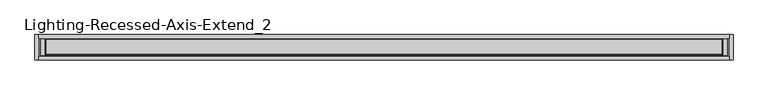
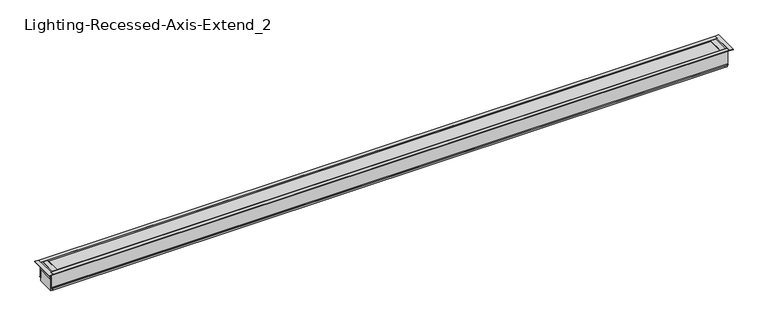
"""IFC4 building model written with IfcOpenShell, lengths in millimetres: light fixture geometry, Lighting-Recessed-Axis-Extend_2 : EX2R-900-80-35-SO-4."""

from ifc_helpers import new_model, si_unit, point, frame, frame_2d, origin, place, context, project, spatial, polyline, circle_curve, trimmed, segment, composite_curve, outline, extrude, faceted_brep, source, transform, mapped, element, save


def lighting_recessed_axis_extend_2_c471fec2(model_context):
    return source(origin(), model_context, "Body", "SolidModel", [
        extrude(outline(polyline([(34.29, -57.023), (38.954552, -57.023), (38.954552, -58.674), (32.004, -58.674), (32.004, 1.651), (45.593, 1.651), (45.593, 0.0), (34.29, 0.0), (34.29, -57.023)])), frame((-1240.536, 0.0, 0.0), z_axis=(1.0, 0.0, 0.0), x_axis=(0.0, 1.0, 0.0)), (0.0, 0.0, 1.0), 2481.072),
        extrude(outline(polyline([(-34.29, -57.023), (-34.29, 0.0), (-45.593, 0.0), (-45.593, 1.651), (-32.004, 1.651), (-32.004, -58.674), (-38.954552, -58.674), (-38.954552, -57.023), (-34.29, -57.023)])), frame((-1240.536, 0.0, 0.0), z_axis=(1.0, 0.0, 0.0), x_axis=(0.0, 1.0, 0.0)), (0.0, 0.0, 1.0), 2481.072),
        faceted_brep([(1240.536, -32.004, 0.0), (1240.536, -32.004, -23.749), (1242.822, -32.004, -23.749), (1242.822, -32.004, 0.0), (1242.822, 32.004, 0.0), (1242.822, 32.004, -23.749), (1240.536, 32.004, -23.749), (1240.536, 32.004, 0.0), (1240.536, -45.593, 0.0), (1240.536, -45.593, 1.651), (1240.536, 45.593, 1.651), (1240.536, 45.593, 0.0), (1254.379, -45.593, 0.0), (1254.379, -45.593, 1.651), (1254.379, 45.593, 1.651), (1254.379, 45.593, 0.0)], [[[0, 1, 2, 3]], [[4, 5, 6, 7]], [[1, 0, 8, 9, 10, 11, 7, 6]], [[2, 1, 6, 5]], [[3, 2, 5, 4]], [[8, 12, 13, 9]], [[11, 10, 14, 15]], [[12, 8, 0, 3, 4, 7, 11, 15]], [[13, 12, 15, 14]], [[9, 13, 14, 10]]]),
        extrude(outline(polyline([(0.5492861, 1215.8726), (-0.92075, 1215.8726), (-0.92075, 1216.66635), (-0.127, 1216.66635), (-0.127, 1223.518), (-2.9332019, 1223.518), (-2.9332019, 1234.186), (1.651, 1234.186), (1.651, 1216.7971437), (0.5492861, 1215.8726)])), frame((0.0, -29.972, 0.0), z_axis=(0.0, 1.0, 0.0), x_axis=(0.0, 0.0, 1.0)), (0.0, 0.0, 1.0), 59.944),
        extrude(outline(polyline([(1234.186, -32.004), (1234.186, 32.004), (1240.536, 32.004), (1240.536, -32.004), (1234.186, -32.004)])), frame((0.0, 0.0, -69.7865), z_axis=(0.0, 0.0, 1.0), x_axis=(1.0, 0.0, 0.0)), (0.0, 0.0, 1.0), 71.4375),
        faceted_brep([(-1242.822, -32.004, 0.0), (-1242.822, -32.004, -23.749), (-1240.536, -32.004, -23.749), (-1240.536, -32.004, 0.0), (-1240.536, 32.004, 0.0), (-1240.536, 32.004, -23.749), (-1242.822, 32.004, -23.749), (-1242.822, 32.004, 0.0), (-1240.536, 45.593, 0.0), (-1240.536, 45.593, 1.651), (-1240.536, -45.593, 1.651), (-1240.536, -45.593, 0.0), (-1254.379, -45.593, 0.0), (-1254.379, -45.593, 1.651), (-1254.379, 45.593, 0.0), (-1254.379, 45.593, 1.651)], [[[0, 1, 2, 3]], [[4, 5, 6, 7]], [[1, 0, 7, 6]], [[2, 1, 6, 5]], [[3, 2, 5, 4, 8, 9, 10, 11]], [[12, 11, 10, 13]], [[14, 15, 9, 8]], [[13, 10, 9, 15]], [[12, 13, 15, 14]], [[11, 12, 14, 8, 4, 7, 0, 3]]]),
        extrude(outline(polyline([(0.5492861, -1215.8726), (1.651, -1216.7971437), (1.651, -1234.186), (-2.9332019, -1234.186), (-2.9332019, -1223.518), (-0.127, -1223.518), (-0.127, -1216.66635), (-0.92075, -1216.66635), (-0.92075, -1215.8726), (0.5492861, -1215.8726)])), frame((0.0, -29.972, 0.0), z_axis=(0.0, 1.0, 0.0), x_axis=(0.0, 0.0, 1.0)), (0.0, 0.0, 1.0), 59.944),
        extrude(outline(polyline([(-1234.186, 32.004), (-1234.186, -32.004), (-1240.536, -32.004), (-1240.536, 32.004), (-1234.186, 32.004)])), frame((0.0, 0.0, -69.7865), z_axis=(0.0, 0.0, 1.0), x_axis=(1.0, 0.0, 0.0)), (0.0, 0.0, 1.0), 71.4375),
        extrude(outline(composite_curve([segment(polyline([(-24.1727262, -3.2385009), (-24.5114181, -9.7011263)]), True, "CONTINUOUS"), segment(trimmed(circle_curve(frame_2d((-27.2542, -12.7)), 4.064), [point((-24.5114181, -9.7011263))], [point((-25.3818814, -16.3070097))], False, "CARTESIAN"), True, "CONTINUOUS"), segment(trimmed(circle_curve(frame_2d((-22.149344, -15.5181543)), 3.3274001), [point((-25.3818814, -16.3070097))], [point((-24.5665956, -17.8047425))], True, "CARTESIAN"), True, "CONTINUOUS"), segment(trimmed(circle_curve(frame_2d((-17.1303177, -10.7704292)), 10.2362001), [point((-24.5665956, -17.8047425))], [point((-23.2119066, -19.0041445))], True, "CARTESIAN"), True, "CONTINUOUS"), segment(trimmed(circle_curve(frame_2d((-23.7023573, -19.6681538)), 0.8255), [point((-23.2119066, -19.0041445))], [point((-24.192808, -20.3321631))], False, "CARTESIAN"), True, "CONTINUOUS"), segment(trimmed(circle_curve(frame_2d((-17.1303169, -10.7704283)), 11.8872013), [point((-24.192808, -20.3321631))], [point((-25.7659952, -18.9393092))], False, "CARTESIAN"), True, "CONTINUOUS"), segment(trimmed(circle_curve(frame_2d((-22.149344, -15.5181543)), 4.9784001), [point((-25.7659952, -18.9393092))], [point((-27.1108807, -15.10874))], False, "CARTESIAN"), True, "CONTINUOUS"), segment(trimmed(circle_curve(frame_2d((-27.2542, -12.7)), 2.413), [point((-27.1108807, -15.10874))], [point((-25.4753941, -11.0695342))], True, "CARTESIAN"), True, "CONTINUOUS"), segment(trimmed(circle_curve(frame_2d((-23.6029669, -9.3532544)), 2.54), [point((-25.4753941, -11.0695342))], [point((-26.1394859, -9.2203211))], False, "CARTESIAN"), True, "CONTINUOUS"), segment(polyline([(-26.1394859, -9.2203211), (-25.825992, -3.2385009), (-28.829, -3.2385009), (-28.829, -1.3335), (28.829, -1.3335), (28.829, -3.2385009), (25.825992, -3.2385009), (26.1394859, -9.2203211)]), True, "CONTINUOUS"), segment(trimmed(circle_curve(frame_2d((23.6029669, -9.3532544)), 2.54), [point((26.1394859, -9.2203211))], [point((25.4753941, -11.0695342))], False, "CARTESIAN"), True, "CONTINUOUS"), segment(trimmed(circle_curve(frame_2d((27.2542, -12.7)), 2.413), [point((25.4753941, -11.0695342))], [point((27.1108807, -15.10874))], True, "CARTESIAN"), True, "CONTINUOUS"), segment(trimmed(circle_curve(frame_2d((22.149344, -15.5181543)), 4.9784001), [point((27.1108807, -15.10874))], [point((25.7659952, -18.9393092))], False, "CARTESIAN"), True, "CONTINUOUS"), segment(trimmed(circle_curve(frame_2d((17.1303169, -10.7704283)), 11.8872013), [point((25.7659952, -18.9393092))], [point((24.192808, -20.3321631))], False, "CARTESIAN"), True, "CONTINUOUS"), segment(trimmed(circle_curve(frame_2d((23.7023573, -19.6681538)), 0.8255), [point((24.192808, -20.3321631))], [point((23.2119066, -19.0041445))], False, "CARTESIAN"), True, "CONTINUOUS"), segment(trimmed(circle_curve(frame_2d((17.1303177, -10.7704292)), 10.2362001), [point((23.2119066, -19.0041445))], [point((24.5665956, -17.8047425))], True, "CARTESIAN"), True, "CONTINUOUS"), segment(trimmed(circle_curve(frame_2d((22.149344, -15.5181543)), 3.3274001), [point((24.5665956, -17.8047425))], [point((25.3818814, -16.3070097))], True, "CARTESIAN"), True, "CONTINUOUS"), segment(trimmed(circle_curve(frame_2d((27.2542, -12.7)), 4.064), [point((25.3818814, -16.3070097))], [point((24.5114181, -9.7011263))], False, "CARTESIAN"), True, "CONTINUOUS"), segment(polyline([(24.5114181, -9.7011263), (24.1727262, -3.2385009), (-24.1727262, -3.2385009)]), True, "CONTINUOUS")], self_intersect=False)), frame((-1219.2, 0.0, 0.0), z_axis=(1.0, 0.0, 0.0), x_axis=(0.0, 1.0, 0.0)), (0.0, 0.0, 1.0), 2438.4),
        extrude(outline(composite_curve([segment(polyline([(-29.972, -13.2588), (-29.972, -67.7545), (29.972, -67.7545), (29.972, -13.2588), (28.1325797, -13.2588)]), True, "CONTINUOUS"), segment(trimmed(circle_curve(frame_2d((26.6262297, -13.2588)), 1.5063501), [point((28.1325797, -13.2588))], [point((25.8730546, -14.5633374))], False, "CARTESIAN"), True, "CONTINUOUS"), segment(trimmed(circle_curve(frame_2d((27.0642121, -12.5001921)), 2.382315), [point((25.8730546, -14.5633374))], [point((24.6896516, -12.3081318))], False, "CARTESIAN"), True, "CONTINUOUS"), segment(polyline([(24.6896516, -12.3081318), (28.067, -9.4742), (28.067, -11.2268), (29.972, -11.2268), (29.972, -4.699), (28.067, -4.699), (28.067, -6.223), (26.416, -6.1364748), (26.416, -3.429), (29.972, -3.429), (29.972, 1.651), (32.004, 1.651), (32.004, -69.7865), (-32.004, -69.7865), (-32.004, 1.651), (-29.972, 1.651), (-29.972, -3.429), (-26.416, -3.429), (-26.416, -6.1364748), (-28.067, -6.223), (-28.067, -4.699), (-29.972, -4.699), (-29.972, -11.2268), (-28.067, -11.2268), (-28.067, -9.4742), (-24.6896516, -12.3081318)]), True, "CONTINUOUS"), segment(trimmed(circle_curve(frame_2d((-27.0642121, -12.5001921)), 2.382315), [point((-24.6896516, -12.3081318))], [point((-25.8730546, -14.5633374))], False, "CARTESIAN"), True, "CONTINUOUS"), segment(trimmed(circle_curve(frame_2d((-26.6262297, -13.2588)), 1.5063501), [point((-25.8730546, -14.5633374))], [point((-28.1325797, -13.2588))], False, "CARTESIAN"), True, "CONTINUOUS"), segment(polyline([(-28.1325797, -13.2588), (-29.972, -13.2588)]), True, "CONTINUOUS")], self_intersect=False)), frame((-1234.186, 0.0, 0.0), z_axis=(1.0, 0.0, 0.0), x_axis=(0.0, 1.0, 0.0)), (0.0, 0.0, 1.0), 2468.372),
    ])


if __name__ == "__main__":
    model = new_model("IFC4")
    model_context = context("Model", 3, world=origin())
    ifc_project = project(units=[si_unit("LENGTHUNIT", "METRE", prefix="MILLI")], contexts=[model_context])
    site = spatial("IfcSite", under=ifc_project)
    building = spatial("IfcBuilding", under=site)
    placement = place(None, origin())
    lighting_recessed_axis_extend_2_shape = lighting_recessed_axis_extend_2_c471fec2(model_context)
    element("IfcLightFixture", 1, ObjectType="Lighting-Recessed-Axis-Extend_2 : EX2R-900-80-35-SO-4", at=placement, inside=building, context=model_context, shape_type="MappedRepresentation", body=[
        mapped(lighting_recessed_axis_extend_2_shape, transform((0.0, 0.0, 0.0), x_axis=(1.0, 0.0, 0.0), y_axis=(0.0, 1.0, 0.0), z_axis=(0.0, 0.0, 1.0))),
    ])
    save(model, "model.ifc")
